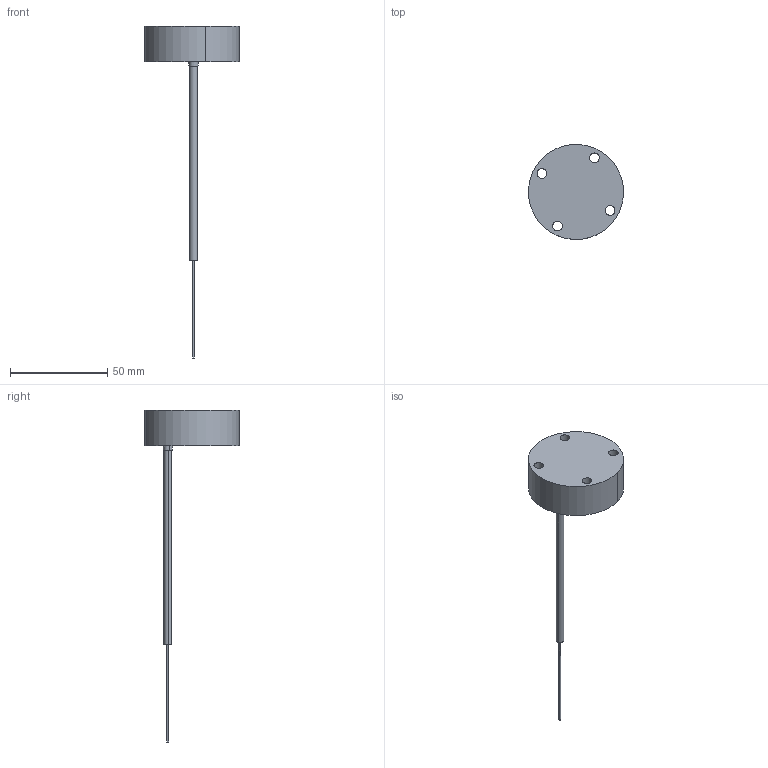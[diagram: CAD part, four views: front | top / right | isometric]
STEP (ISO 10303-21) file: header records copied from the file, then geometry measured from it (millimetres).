
FILE_DESCRIPTION (( 'STEP AP203' ), '1' );
FILE_NAME ('SR20.STEP', '2016-06-21T01:36:30', ( '' ), ( '' ), 'SwSTEP 2.0', 'SolidWorks 2014', '' );
FILE_SCHEMA (( 'CONFIG_CONTROL_DESIGN' ));
Length unit declared in the file: metre
Products named in the file (3): SR20; 2; PRNA10S-#-#-#-FR-line (7)_2
Assembly tree (2 placements, depth 2):
  SR20
    2
    PRNA10S-#-#-#-FR-line (7)_2
Bounding box: 48.91 x 48.91 x 171 mm (x, y, z)
Volume: 34353.8 mm3; surface area: 9024.5 mm2
Topology: 2 solids, 2 shells, 22 faces, 48 edges, 32 vertices
Faces by surface type: cylinder 14, plane 6, cone 2
Entity records: 945 total; most frequent: DIRECTION 134, CARTESIAN_POINT 107, ORIENTED_EDGE 96, AXIS2_PLACEMENT_3D 59, EDGE_CURVE 48, CIRCLE 32, VERTEX_POINT 32, EDGE_LOOP 32
